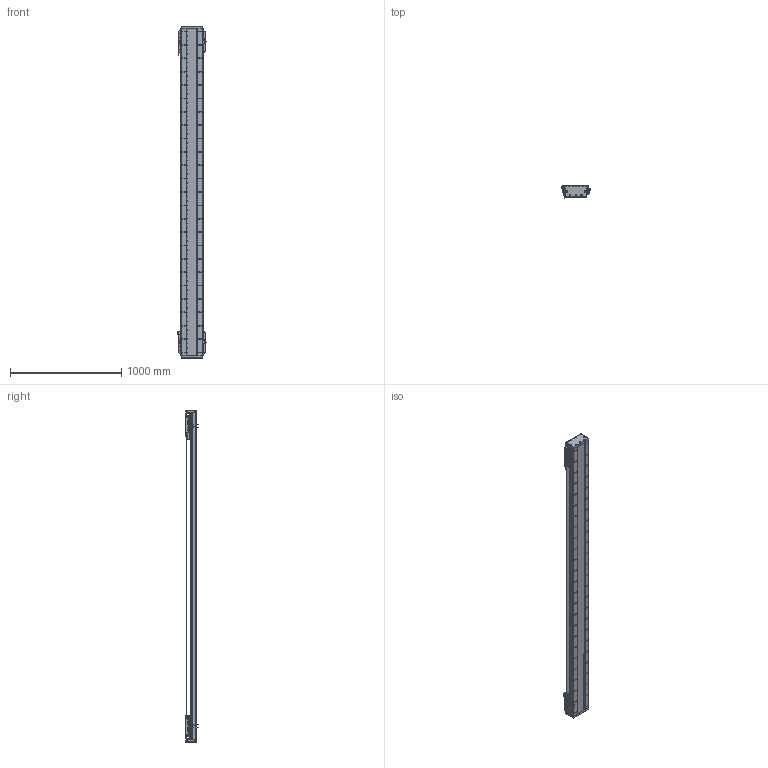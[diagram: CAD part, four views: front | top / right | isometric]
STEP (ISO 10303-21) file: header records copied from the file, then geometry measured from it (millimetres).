
FILE_DESCRIPTION (( 'STEP AP203' ), '1' );
FILE_NAME ('DA-C195-2-C2-T2480-C010-0.2 眻盄萇儂.STEP', '2025-08-14T02:11:22', ( '' ), ( '' ), 'SwSTEP 2.0', 'SolidWorks 2019', '' );
FILE_SCHEMA (( 'CONFIG_CONTROL_DESIGN' ));
Length unit declared in the file: millimetre
Products named in the file (19): IU-CU195-L 菁釱絳寢-1; MS200 棠掑喜S315-T1740-1; DA195詩湍菜輸-1; LMT黍杅芛-1; DA-C195-2-C2-T2480-C010-0.2 眻盄萇儂; DA95-HXJ-00 遣喳砎蝶-1; DKW-GYP-ZJ-00 笢潔嫖萇覜茼え-1; IU-CU195-L-00 菁釱(L2940); CU195-C2賑輸-俋楷-1; PM-T45ㄗ侂狟ㄘ-1; DA195詩湍郪璃-1; PM-Y65嫖萇羲壽郪璃-1; 葩璃 DA95-GT-T-00-1; DA195詩湍嶺輸-1; DA195詩湍裔啣-1; DA165-GYP-00 光电感应片(默认)-1; DA-C195-GD-DB-H-00 傷啣-1; DKW-KGZ-ZJ-00 中间光电开关支架-1; DKW168-HXJ-ZJ-00 笢潔滅袉砎蝶-1
Assembly tree (37 placements, depth 3):
  DA-C195-2-C2-T2480-C010-0.2 眻盄萇儂
    DA195詩湍郪璃-1
      DA195詩湍菜輸-1  x2
      DA195詩湍裔啣-1
      DA195詩湍嶺輸-1  x2
      DA95-HXJ-00 遣喳砎蝶-1  x8
      DA-C195-GD-DB-H-00 傷啣-1  x2
    IU-CU195-L 菁釱絳寢-1
      IU-CU195-L-00 菁釱(L2940)
      葩璃 DA95-GT-T-00-1  x4
    LMT黍杅芛-1  x2
    MS200 棠掑喜S315-T1740-1
    PM-T45ㄗ侂狟ㄘ-1  x4
    DA165-GYP-00 光电感应片(默认)-1  x2
    PM-Y65嫖萇羲壽郪璃-1
    DKW168-HXJ-ZJ-00 笢潔滅袉砎蝶-1
    DKW-GYP-ZJ-00 笢潔嫖萇覜茼え-1
    DKW-KGZ-ZJ-00 中间光电开关支架-1
    CU195-C2賑輸-俋楷-1  x2
Bounding box: 258.2 x 115.45 x 2980 mm (x, y, z)
Volume: 18069478.1 mm3; surface area: 5279610.3 mm2
Topology: 114 solids, 242 shells, 7167 faces, 19199 edges, 11969 vertices
Faces by surface type: cylinder 3452, plane 2631, cone 916, torus 88, sphere 72, bspline 8
Entity records: 159293 total; most frequent: CARTESIAN_POINT 43767, ORIENTED_EDGE 24230, DIRECTION 22954, EDGE_CURVE 12115, AXIS2_PLACEMENT_3D 8469, VERTEX_POINT 7856, VECTOR 6016, LINE 6016
